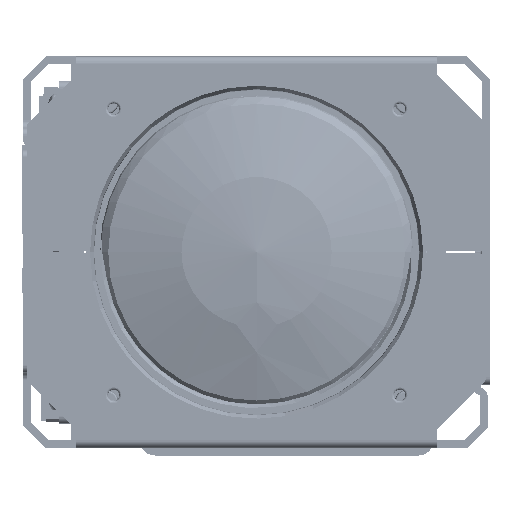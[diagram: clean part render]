
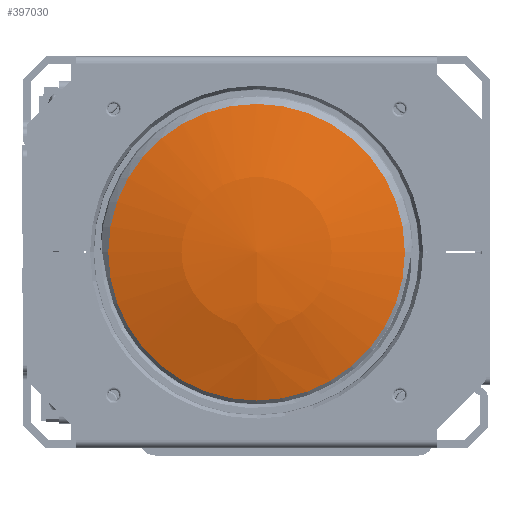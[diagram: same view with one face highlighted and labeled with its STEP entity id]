
A CAD part, left-side view. The second image highlights one B-rep face of the part: STEP entity #397030.
In plain terms, the highlighted spherical face has radius 63.696 mm.
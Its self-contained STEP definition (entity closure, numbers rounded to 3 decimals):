
#397030 = ADVANCED_FACE('',(#397031),#397054,.F.);
#397031 = FACE_BOUND('',#397032,.F.);
#397032 = EDGE_LOOP('',(#397033,#397046,#397053));
#397033 = ORIENTED_EDGE('',*,*,#397034,.T.);
#397034 = EDGE_CURVE('',#397035,#397037,#397039,.T.);
#397035 = VERTEX_POINT('',#397036);
#397036 = CARTESIAN_POINT('',(0.,0.,0.
    ));
#397037 = VERTEX_POINT('',#397038);
#397038 = CARTESIAN_POINT('',(3.123,0.,-19.7));
#397039 = B_SPLINE_CURVE_WITH_KNOTS('',5,(#397040,#397041,#397042,
    #397043,#397044,#397045),.UNSPECIFIED.,.F.,.F.,(6,6),(
    -1.571,-1.256),.PIECEWISE_BEZIER_KNOTS.);
#397040 = CARTESIAN_POINT('',(0.,0.,0.
    ));
#397041 = CARTESIAN_POINT('',(0.,0.,-4.006));
#397042 = CARTESIAN_POINT('',(0.315,0.,-8.011));
#397043 = CARTESIAN_POINT('',(0.945,0.,-11.984));
#397044 = CARTESIAN_POINT('',(1.884,0.,-15.891));
#397045 = CARTESIAN_POINT('',(3.123,0.,-19.7));
#397046 = ORIENTED_EDGE('',*,*,#397047,.F.);
#397047 = EDGE_CURVE('',#397037,#397037,#397048,.T.);
#397048 = CIRCLE('',#397049,19.7);
#397049 = AXIS2_PLACEMENT_3D('',#397050,#397051,#397052);
#397050 = CARTESIAN_POINT('',(3.123,0.,0.));
#397051 = DIRECTION('',(1.,0.,0.));
#397052 = DIRECTION('',(0.,0.,-1.));
#397053 = ORIENTED_EDGE('',*,*,#397034,.F.);
#397054 = SPHERICAL_SURFACE('',#397055,63.696);
#397055 = AXIS2_PLACEMENT_3D('',#397056,#397057,#397058);
#397056 = CARTESIAN_POINT('',(63.696,0.,0.));
#397057 = DIRECTION('',(1.,0.,0.));
#397058 = DIRECTION('',(0.,0.,-1.));
